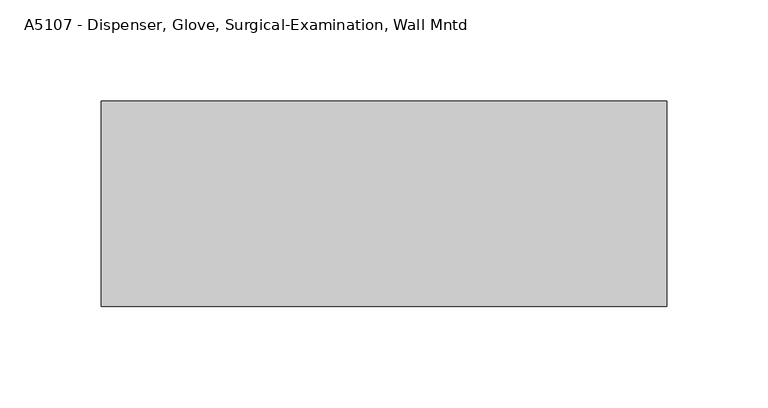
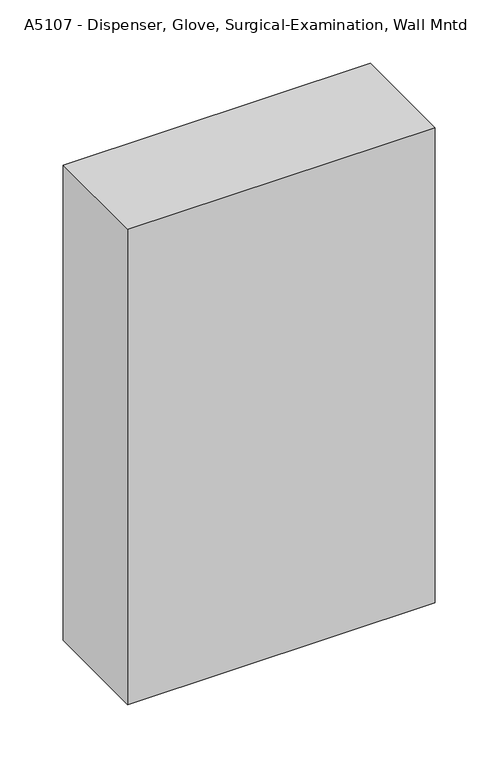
"""IFC4 building model written with IfcOpenShell, lengths in millimetres: proxy geometry."""

from ifc_helpers import new_model, si_unit, origin, origin_with_axes, place, context, project, spatial, polyline, outline, extrude, source, transform, mapped, element, save


def a5107_dispenser_glove_surgical_examination_wall_mntd_cc734ed0(model_context):
    return source(origin(), model_context, "Body", "SweptSolid", [
        extrude(outline(polyline([(139.7, 0.0), (139.7, -101.6), (-139.7, -101.6), (-139.7, 0.0), (139.7, 0.0)])), origin_with_axes(), (0.0, 0.0, 1.0), 457.2),
    ])


if __name__ == "__main__":
    model = new_model("IFC4")
    model_context = context("Model", 3, world=origin())
    ifc_project = project(units=[si_unit("LENGTHUNIT", "METRE", prefix="MILLI")], contexts=[model_context])
    site = spatial("IfcSite", under=ifc_project)
    building = spatial("IfcBuilding", under=site)
    placement = place(None, origin())
    a5107_dispenser_glove_surgical_examination_wall_mntd_shape = a5107_dispenser_glove_surgical_examination_wall_mntd_cc734ed0(model_context)
    element("IfcBuildingElementProxy", 1, Name="A5107 - Dispenser, Glove, Surgical-Examination, Wall Mntd : A5107 - Dispenser, Glove, Surgical-Examination, Wall Mntd 10\"x 4\"", ObjectType="A5107 - Dispenser, Glove, Surgical-Examination, Wall Mntd : A5107 - Dispenser, Glove, Surgical-Examination, Wall Mntd 10\"x 4\"", at=placement, inside=building, context=model_context, shape_type="MappedRepresentation", body=[
        mapped(a5107_dispenser_glove_surgical_examination_wall_mntd_shape, transform((0.0, 0.0, 0.0), x_axis=(1.0, 0.0, 0.0), y_axis=(0.0, 1.0, 0.0), z_axis=(0.0, 0.0, 1.0))),
    ])
    save(model, "model.ifc")
